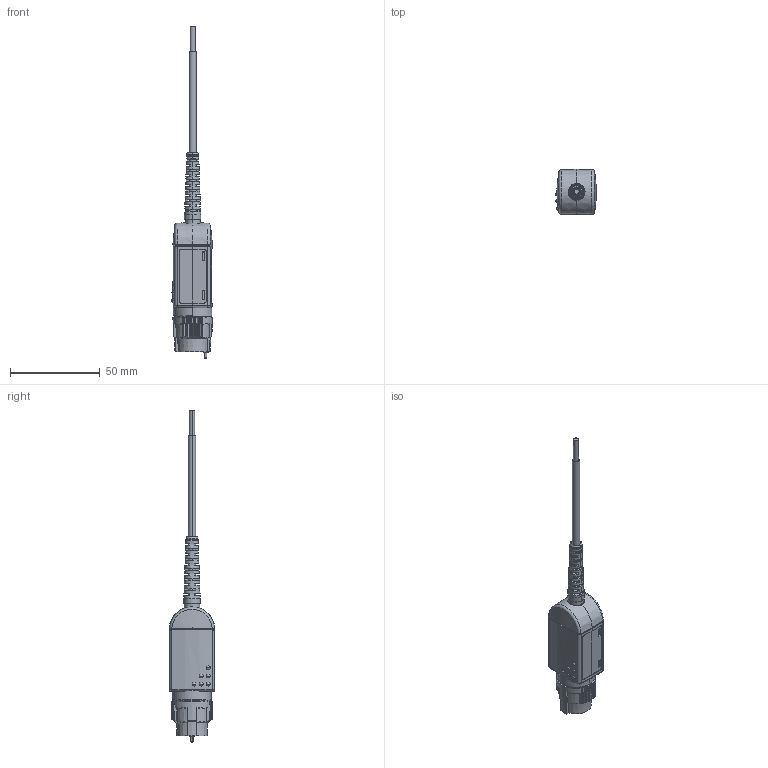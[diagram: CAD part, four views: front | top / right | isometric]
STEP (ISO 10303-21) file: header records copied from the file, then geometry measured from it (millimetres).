
FILE_DESCRIPTION((''),'2;1');
FILE_NAME('MODULE_CB_P5100A_PNY_ASM','2018-07-03T',('mdevin'),(''),'CREO PARAMETRIC BY PTC INC, 2016050','CREO PARAMETRIC BY PTC INC, 2016050','');
FILE_SCHEMA(('CONFIG_CONTROL_DESIGN'));
Length unit declared in the file: millimetre
Products named in the file (10): CONN_BNC_BODY_P5100A_PNY; CABLE_CB_P5100A_PNY; 2PH_CRIMP_CENTER_CONDUCTOR_FCM; CABLE_CB_P5100A_PNY_ASM; BOOT1_CPROBE_VPI; CB_COMP_HALF_RIGHT_JCK; CB_COMP_HALF_LEFT_JCK; CB_BNC-COVER_JCK; 131201500; MODULE_CB_P5100A_PNY_ASM
Assembly tree (9 placements, depth 3):
  MODULE_CB_P5100A_PNY_ASM
    CONN_BNC_BODY_P5100A_PNY
    CABLE_CB_P5100A_PNY_ASM
      CABLE_CB_P5100A_PNY
      2PH_CRIMP_CENTER_CONDUCTOR_FCM
    BOOT1_CPROBE_VPI
    CB_COMP_HALF_RIGHT_JCK
    CB_COMP_HALF_LEFT_JCK
    CB_BNC-COVER_JCK
    131201500
Bounding box: 22.74 x 25.4 x 185.07 mm (x, y, z)
Volume: 16244 mm3; surface area: 24601.1 mm2
Topology: 11 solids, 13 shells, 1257 faces, 3375 edges, 2134 vertices
Faces by surface type: plane 495, cylinder 277, bspline 260, cone 185, torus 23, sphere 17
Entity records: 66438 total; most frequent: CARTESIAN_POINT 26886, ORIENTED_EDGE 6718, DIRECTION 4953, PRESENTATION_STYLE_ASSIGNMENT 3374, EDGE_CURVE 3363, STYLED_ITEM 3336, CURVE_STYLE 3319, VERTEX_POINT 2134
